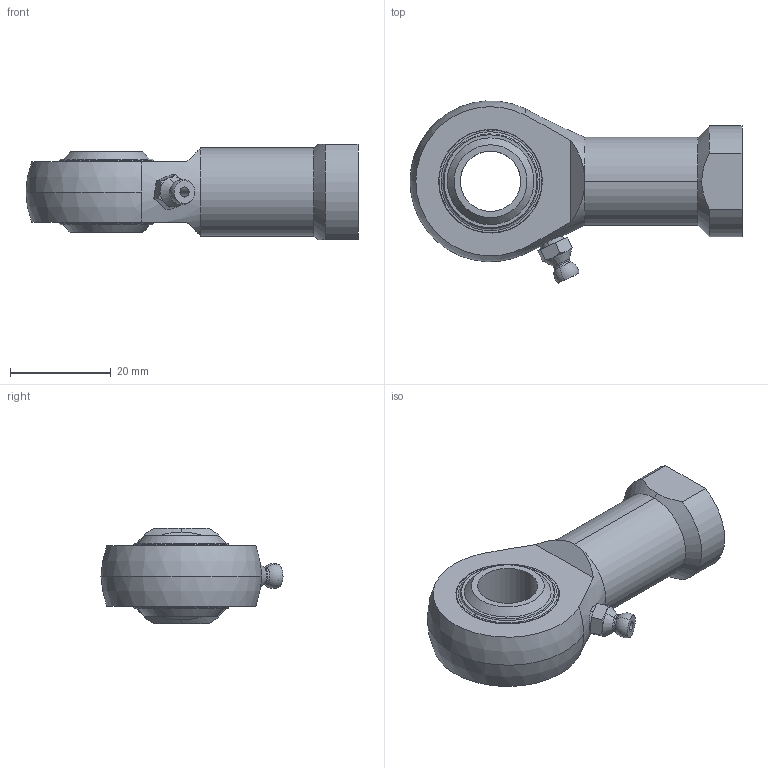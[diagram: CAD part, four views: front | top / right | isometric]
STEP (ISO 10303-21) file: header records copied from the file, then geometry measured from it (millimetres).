
FILE_DESCRIPTION (( 'STEP AP203' ), '1' );
FILE_NAME ('65760.W0212.step', '2014-02-11T16:39:02', ( 'User' ), ( '' ), 'SwSTEP 2.0', 'SolidWorks 2009', '' );
FILE_SCHEMA (( 'CONFIG_CONTROL_DESIGN' ));
Length unit declared in the file: millimetre
Products named in the file (5): 65760.W0212; Part4_65760.W0212; Part3_M5; Part2_65760.W0212; Part1_65760.W0212
Assembly tree (5 placements, depth 2):
  65760.W0212
    Part4_65760.W0212  x2
    Part1_65760.W0212
    Part2_65760.W0212
    Part3_M5
Bounding box: 66 x 36.19 x 19 mm (x, y, z)
Volume: 14556.9 mm3; surface area: 10283.7 mm2
Topology: 46 solids, 46 shells, 183 faces, 524 edges, 353 vertices
Faces by surface type: sphere 98, plane 27, torus 22, cylinder 20, cone 16
Entity records: 4803 total; most frequent: CARTESIAN_POINT 897, DIRECTION 814, ORIENTED_EDGE 558, AXIS2_PLACEMENT_3D 385, EDGE_CURVE 279, VERTEX_POINT 208, CIRCLE 207, EDGE_LOOP 189
